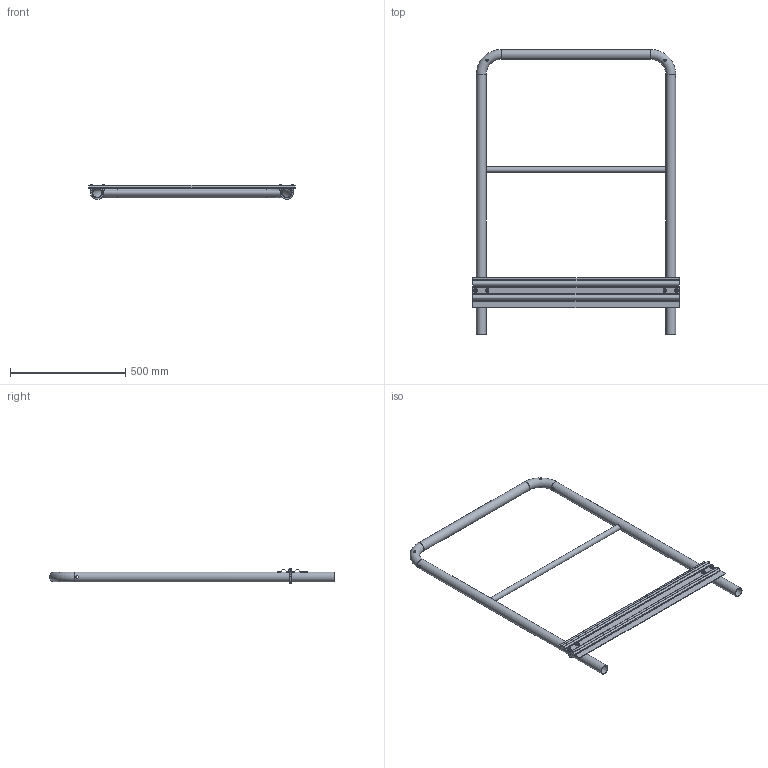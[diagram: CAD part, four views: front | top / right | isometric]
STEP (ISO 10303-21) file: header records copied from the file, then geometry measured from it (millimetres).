
FILE_DESCRIPTION((''),'2;1');
FILE_NAME('S:\Användarkataloger\AndreasA\Mina Inventor filer\Räcken\STEP\modul_ind_slist_900-1216.stp','2010-09-07T13:19:47',('AndreasA'),(''),'Autodesk Inventor 2011','Autodesk Inventor 2011','');
FILE_SCHEMA(('AUTOMOTIVE_DESIGN { 1 0 10303 214 1 1 1 1 }'));
Length unit declared in the file: millimetre
Products named in the file (9): modul_ind_slist_900-1216; modul_ind_900-1216; handledare_modul_900-1216; mellanliggare_modul_900; sparklist_k130_modul_900; bygelskruv_U42_kpl; bygelskruv_U42; SS 3576 8; ISO 4032 M8
Assembly tree (11 placements, depth 3):
  modul_ind_slist_900-1216
    modul_ind_900-1216
      handledare_modul_900-1216
      mellanliggare_modul_900
    sparklist_k130_modul_900
    bygelskruv_U42_kpl  x2
      bygelskruv_U42
      SS 3576 8
      ISO 4032 M8
Bounding box: 896 x 1237.2 x 64.95 mm (x, y, z)
Volume: 1261764.6 mm3; surface area: 1198023.5 mm2
Topology: 13 solids, 13 shells, 148 faces, 350 edges, 224 vertices
Faces by surface type: plane 66, cylinder 52, cone 24, torus 6
Full cylindrical faces by diameter (mm): 6.647 x4, 7 x4, 8 x4, 8.4 x4, 10 x4, 11 x8, 16 x4, 21 x1, 25 x1, 38.4 x3, 42.4 x3
Entity records: 3275 total; most frequent: CARTESIAN_POINT 1136, DIRECTION 414, ORIENTED_EDGE 324, AXIS2_PLACEMENT_3D 174, EDGE_CURVE 162, EDGE_LOOP 158, VERTEX_POINT 128, FACE_OUTER_BOUND 86
